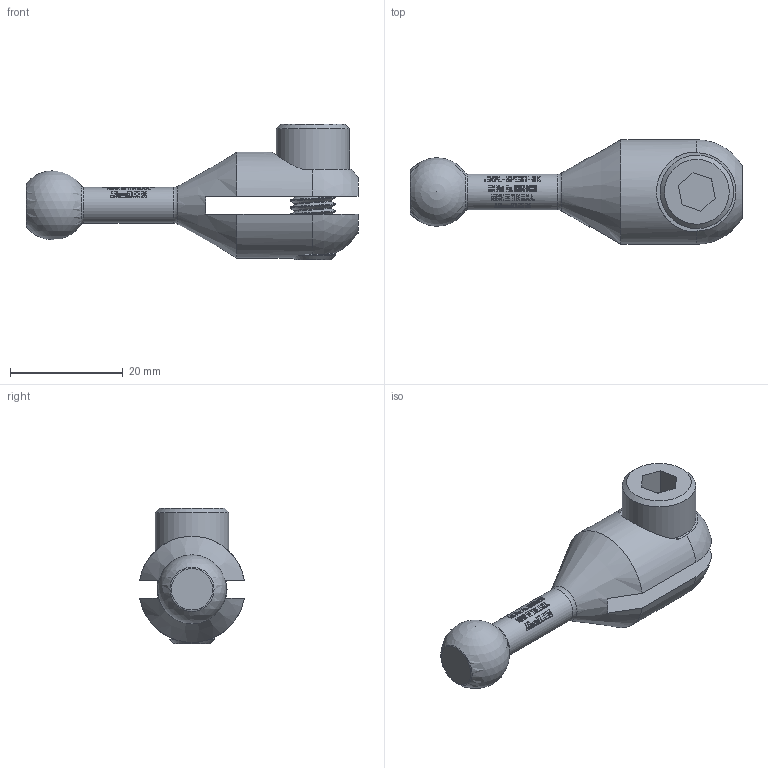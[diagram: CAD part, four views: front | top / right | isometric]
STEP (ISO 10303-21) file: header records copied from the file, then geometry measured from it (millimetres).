
FILE_DESCRIPTION(/* description */ ('JRPL BRACKET POST'),/* implementation_level */ '2;1');
FILE_NAME(/* name */ 'C:\Users\Shayne Riley\Documents\Vault\AD&D\Design Files\Pop-Link\JRPL Series Assemblies\JRPL-SPOST-BK.stp',/* time_stamp */ '2020-11-18T09:12:07-05:00',/* author */ ('Shayne Riley'),/* organization */ (''),/* preprocessor_version */ 'ST-DEVELOPER v18.1',/* originating_system */ 'Autodesk Inventor 2021',/* authorisation */ '');
FILE_SCHEMA (('AUTOMOTIVE_DESIGN { 1 0 10303 214 3 1 1 }'));
Length unit declared in the file: inch
Products named in the file (3): JRPL-SPOST-BK; 60265; 60040
Assembly tree (2 placements, depth 2):
  JRPL-SPOST-BK
    60265
    60040
Bounding box: 58.77 x 18.53 x 24 mm (x, y, z)
Volume: 7471.8 mm3; surface area: 5372.8 mm2
Topology: 3 solids, 3 shells, 829 faces, 2249 edges, 1499 vertices
Faces by surface type: plane 514, bspline 203, cylinder 101, cone 5, sphere 3, torus 3
Full cylindrical faces by diameter (mm): 6.306 x1, 6.369 x2, 6.647 x1, 8 x12, 8.357 x1, 13 x1
Entity records: 35022 total; most frequent: CARTESIAN_POINT 14857, ORIENTED_EDGE 4494, DIRECTION 3609, EDGE_CURVE 2247, VERTEX_POINT 1499, LINE 1239, VECTOR 1239, AXIS2_PLACEMENT_3D 1185
